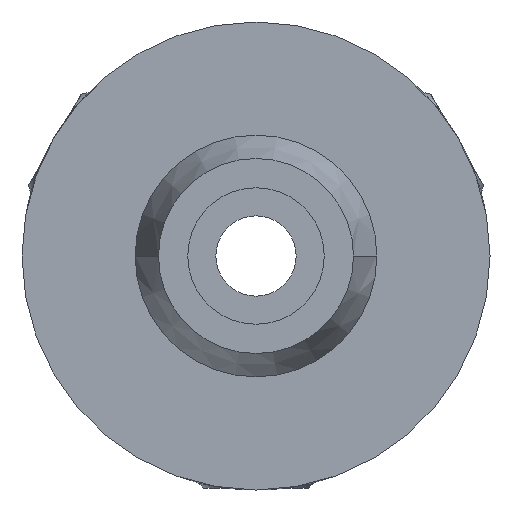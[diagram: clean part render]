
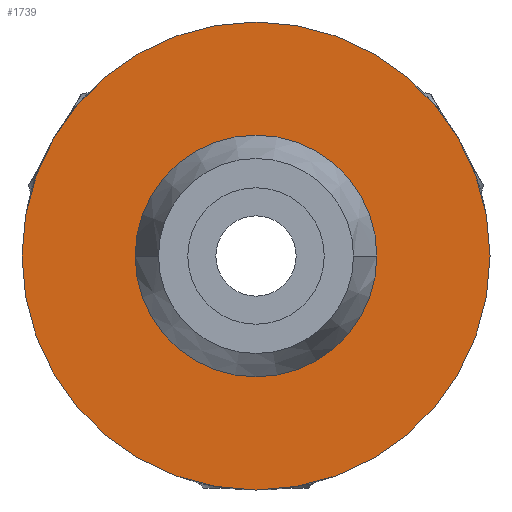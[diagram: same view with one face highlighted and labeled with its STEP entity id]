
A CAD part, front view. The second image highlights one B-rep face of the part: STEP entity #1739.
In plain terms, the highlighted planar face has unit normal (0, -1, 0).
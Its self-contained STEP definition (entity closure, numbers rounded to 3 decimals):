
#1=CARTESIAN_POINT('',(0.,0.,0.));
#2=DIRECTION('',(0.,1.,0.));
#3=DIRECTION('',(1.,0.,0.));
#4=AXIS2_PLACEMENT_3D('',#1,#2,#3);
#6=CARTESIAN_POINT('',(0.,0.,0.));
#7=DIRECTION('',(0.,1.,0.));
#8=DIRECTION('',(-1.,0.,0.));
#9=AXIS2_PLACEMENT_3D('',#6,#7,#8);
#11=CARTESIAN_POINT('',(0.,0.,0.));
#12=DIRECTION('',(0.,1.,0.));
#13=DIRECTION('',(1.,0.,0.));
#14=AXIS2_PLACEMENT_3D('',#11,#12,#13);
#16=CARTESIAN_POINT('',(0.,0.,0.));
#17=DIRECTION('',(0.,1.,0.));
#18=DIRECTION('',(-1.,0.,0.));
#19=AXIS2_PLACEMENT_3D('',#16,#17,#18);
#1630=CARTESIAN_POINT('',(6.,0.,0.));
#1631=CARTESIAN_POINT('',(-6.,0.,0.));
#1632=VERTEX_POINT('',#1630);
#1633=VERTEX_POINT('',#1631);
#1638=CARTESIAN_POINT('',(2.75,0.,0.));
#1639=CARTESIAN_POINT('',(-2.75,0.,0.));
#1640=VERTEX_POINT('',#1638);
#1641=VERTEX_POINT('',#1639);
#1722=CARTESIAN_POINT('',(0.,0.,0.));
#1723=DIRECTION('',(0.,1.,0.));
#1724=DIRECTION('',(1.,0.,0.));
#1725=AXIS2_PLACEMENT_3D('',#1722,#1723,#1724);
#1726=PLANE('',#1725);
#1728=ORIENTED_EDGE('',*,*,#1727,.T.);
#1730=ORIENTED_EDGE('',*,*,#1729,.T.);
#1731=EDGE_LOOP('',(#1728,#1730));
#1732=FACE_OUTER_BOUND('',#1731,.F.);
#1734=ORIENTED_EDGE('',*,*,#1733,.F.);
#1736=ORIENTED_EDGE('',*,*,#1735,.F.);
#1737=EDGE_LOOP('',(#1734,#1736));
#1738=FACE_BOUND('',#1737,.F.);
#1739=ADVANCED_FACE('',(#1732,#1738),#1726,.F.);
#5=CIRCLE('',#4,6.);
#10=CIRCLE('',#9,6.);
#15=CIRCLE('',#14,2.75);
#20=CIRCLE('',#19,2.75);
#1727=EDGE_CURVE('',#1632,#1633,#5,.T.);
#1729=EDGE_CURVE('',#1633,#1632,#10,.T.);
#1733=EDGE_CURVE('',#1640,#1641,#15,.T.);
#1735=EDGE_CURVE('',#1641,#1640,#20,.T.);
